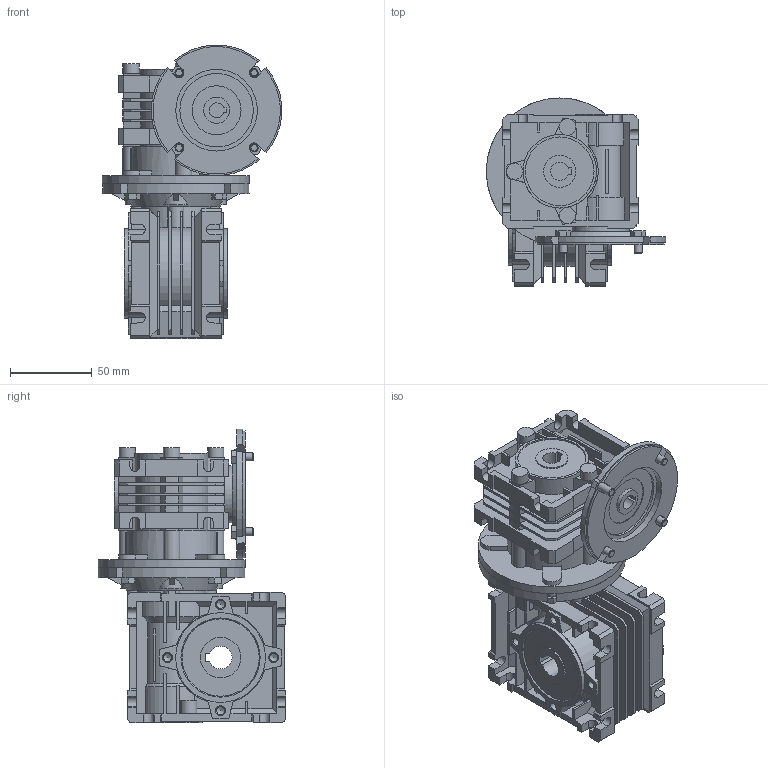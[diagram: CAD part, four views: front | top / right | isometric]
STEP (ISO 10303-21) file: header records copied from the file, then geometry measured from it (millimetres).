
FILE_DESCRIPTION(/* description */ ('STEP AP214'),/* implementation_level */ '2;1');
FILE_NAME(/* name */ 'NMRV-NMRV025-030100 (10x10)612114NO11NO00NO---(--------)',/* time_stamp */ '2024-10-18T10:00:31+02:00',/* author */ ('License CC BY-ND 4.0'),/* organization */ ('CADENAS'),/* preprocessor_version */ 'ST-DEVELOPER v19.3',/* originating_system */ 'PARTsolutions',/* authorisation */ ' ');
FILE_SCHEMA (('AUTOMOTIVE_DESIGN {1 0 10303 214 3 1 1}'));
Length unit declared in the file: millimetre
Products named in the file (14): NMRV-NMRV025-030100 (10x10)612114NO11NO00NO---(--------); 025-030100 (10x10)61211114No11No00NO---(--------)-d; 025-030100 (10x10)612114No11No00NO---d1; 025-030100 (10x10)612114No11No00T0561-d1; Gear unit 30; 030-14 (63)alc-n; VB 030-09 (9); Gear unit 25; 025-11 (50)alc-n; FT 025-030; 30-63 B14; VB 025-09 (9); 25-56 B14; Screw - M6x54
Assembly tree (16 placements, depth 2):
  NMRV-NMRV025-030100 (10x10)612114NO11NO00NO---(--------)
    025-030100 (10x10)61211114No11No00NO---(--------)-d
    025-030100 (10x10)612114No11No00NO---d1
    025-030100 (10x10)612114No11No00T0561-d1  x2
    Gear unit 30
    030-14 (63)alc-n
    VB 030-09 (9)
    Gear unit 25
    025-11 (50)alc-n
    FT 025-030
    30-63 B14
    VB 025-09 (9)
    25-56 B14
    Screw - M6x54  x3
Bounding box: 109.88 x 115 x 179.88 mm (x, y, z)
Volume: 615475.9 mm3; surface area: 209213.8 mm2
Topology: 12 solids, 19 shells, 1407 faces, 3769 edges, 2471 vertices
Faces by surface type: plane 1068, cylinder 288, cone 51
Full cylindrical faces by diameter (mm): 2.031 x3, 3.545 x3, 4.65 x3, 4.917 x8, 5 x8, 6 x3, 6.5 x3, 10 x7, 16 x2, 19 x2, 19.8 x2, 22 x1, 24.8 x2, 28 x1, 30 x4, 32 x1, 35 x1, 37 x1, 38 x1, 42 x1, 45 x3, 50 x1, 55 x2, 60 x2, 90 x1
Entity records: 52603 total; most frequent: CARTESIAN_POINT 7856, ORIENTED_EDGE 7274, DIRECTION 7094, EDGE_CURVE 3637, LINE 2816, VECTOR 2816, VERTEX_POINT 2442, AXIS2_PLACEMENT_3D 2139
